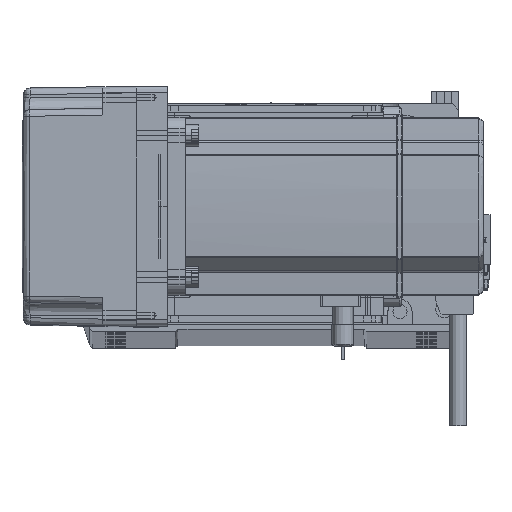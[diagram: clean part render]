
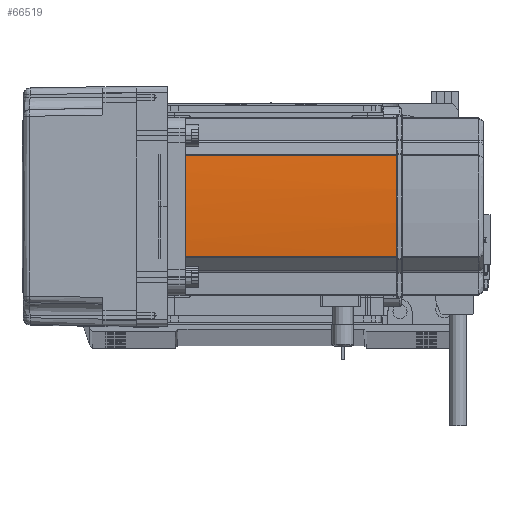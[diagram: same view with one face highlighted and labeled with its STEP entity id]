
A CAD part, top view. The second image highlights one B-rep face of the part: STEP entity #66519.
In plain terms, the highlighted cylindrical face has radius 270 mm (diameter 540 mm), a partial arc.
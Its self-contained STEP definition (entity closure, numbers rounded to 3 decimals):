
#516 = EDGE_CURVE ( 'NONE', #7307, #52599, #23824, .T. ) ;
#1477 = ORIENTED_EDGE ( 'NONE', *, *, #516, .T. ) ;
#1892 = CARTESIAN_POINT ( 'NONE',  ( 39.042, 22.724, 134. ) ) ;
#1950 = DIRECTION ( 'NONE',  ( -1., 0., 0. ) ) ;
#2658 = ORIENTED_EDGE ( 'NONE', *, *, #62612, .T. ) ;
#3048 = ORIENTED_EDGE ( 'NONE', *, *, #12151, .T. ) ;
#6123 = EDGE_LOOP ( 'NONE', ( #1477, #16811, #2658, #3048, #17687, #29390 ) ) ;
#6250 = CIRCLE ( 'NONE', #29387, 270. ) ;
#7307 = VERTEX_POINT ( 'NONE', #10965 ) ;
#8542 = CARTESIAN_POINT ( 'NONE',  ( 40., 0.127, 134. ) ) ;
#10965 = CARTESIAN_POINT ( 'NONE',  ( 39.042, -22.724, 134. ) ) ;
#12151 = EDGE_CURVE ( 'NONE', #64792, #59096, #6250, .T. ) ;
#12964 = CIRCLE ( 'NONE', #52028, 270. ) ;
#16811 = ORIENTED_EDGE ( 'NONE', *, *, #37828, .F. ) ;
#16905 = CARTESIAN_POINT ( 'NONE',  ( 40., -0.127, 134. ) ) ;
#17010 = DIRECTION ( 'NONE',  ( 0., 0., 1. ) ) ;
#17077 = CARTESIAN_POINT ( 'NONE',  ( 39.042, -22.724, 58. ) ) ;
#17687 = ORIENTED_EDGE ( 'NONE', *, *, #53373, .F. ) ;
#19543 = CARTESIAN_POINT ( 'NONE',  ( -230., 0., 58. ) ) ;
#19856 = CARTESIAN_POINT ( 'NONE',  ( 40., 0.127, 134. ) ) ;
#21258 = VERTEX_POINT ( 'NONE', #16905 ) ;
#23646 = DIRECTION ( 'NONE',  ( 0., 0., -1. ) ) ;
#23824 = LINE ( 'NONE', #17077, #51082 ) ;
#24434 = CARTESIAN_POINT ( 'NONE',  ( -230., 0., 39. ) ) ;
#26162 = EDGE_CURVE ( 'NONE', #21258, #7307, #12964, .T. ) ;
#26207 = LINE ( 'NONE', #54380, #32183 ) ;
#29387 = AXIS2_PLACEMENT_3D ( 'NONE', #67426, #66494, #1950 ) ;
#29390 = ORIENTED_EDGE ( 'NONE', *, *, #26162, .T. ) ;
#29892 = DIRECTION ( 'NONE',  ( -1., 0., 0. ) ) ;
#30200 = CARTESIAN_POINT ( 'NONE',  ( 40., -0.042, 134. ) ) ;
#32183 = VECTOR ( 'NONE', #17010, 1000. ) ;
#35356 = AXIS2_PLACEMENT_3D ( 'NONE', #19543, #35483, #41683 ) ;
#35483 = DIRECTION ( 'NONE',  ( 0., 0., -1. ) ) ;
#36727 = CARTESIAN_POINT ( 'NONE',  ( 39.042, -22.724, 39. ) ) ;
#37775 = CYLINDRICAL_SURFACE ( 'NONE', #35356, 270. ) ;
#37828 = EDGE_CURVE ( 'NONE', #43915, #52599, #58295, .T. ) ;
#41683 = DIRECTION ( 'NONE',  ( -1., 0., 0. ) ) ;
#42118 = CARTESIAN_POINT ( 'NONE',  ( 40., -0.127, 134. ) ) ;
#43915 = VERTEX_POINT ( 'NONE', #50889 ) ;
#45076 = CARTESIAN_POINT ( 'NONE',  ( -230., 0., 134. ) ) ;
#46114 = DIRECTION ( 'NONE',  ( 0., 0., -1. ) ) ;
#49714 = DIRECTION ( 'NONE',  ( 0., 0., -1. ) ) ;
#50889 = CARTESIAN_POINT ( 'NONE',  ( 39.042, 22.724, 39. ) ) ;
#51082 = VECTOR ( 'NONE', #49714, 1000. ) ;
#52028 = AXIS2_PLACEMENT_3D ( 'NONE', #45076, #23646, #66974 ) ;
#52599 = VERTEX_POINT ( 'NONE', #36727 ) ;
#53373 = EDGE_CURVE ( 'NONE', #21258, #59096, #63943, .T. ) ;
#54380 = CARTESIAN_POINT ( 'NONE',  ( 39.042, 22.724, 58. ) ) ;
#56629 = AXIS2_PLACEMENT_3D ( 'NONE', #24434, #46114, #29892 ) ;
#58295 = CIRCLE ( 'NONE', #56629, 270. ) ;
#59096 = VERTEX_POINT ( 'NONE', #19856 ) ;
#62612 = EDGE_CURVE ( 'NONE', #43915, #64792, #26207, .T. ) ;
#63943 = B_SPLINE_CURVE_WITH_KNOTS ( 'NONE', 3,
 ( #42118, #30200, #68284, #8542 ),
 .UNSPECIFIED., .F., .F.,
 ( 4, 4 ),
 ( 0., 1. ),
 .UNSPECIFIED. ) ;
#64792 = VERTEX_POINT ( 'NONE', #1892 ) ;
#66494 = DIRECTION ( 'NONE',  ( 0., 0., -1. ) ) ;
#66519 = ADVANCED_FACE ( 'NONE', ( #66772 ), #37775, .T. ) ;
#66772 = FACE_OUTER_BOUND ( 'NONE', #6123, .T. ) ;
#66974 = DIRECTION ( 'NONE',  ( -1., 0., 0. ) ) ;
#67426 = CARTESIAN_POINT ( 'NONE',  ( -230., 0., 134. ) ) ;
#68284 = CARTESIAN_POINT ( 'NONE',  ( 40., 0.042, 134. ) ) ;
